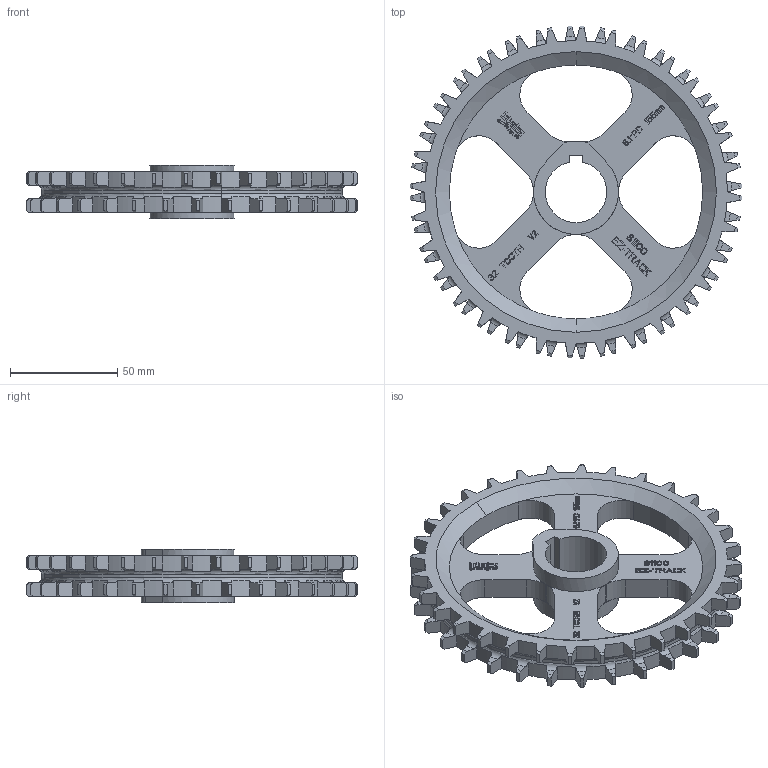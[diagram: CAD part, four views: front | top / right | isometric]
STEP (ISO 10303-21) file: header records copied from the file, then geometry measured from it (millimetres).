
FILE_DESCRIPTION((''),'2;1');
FILE_NAME('S1100_EZ_TRACK_CLEAN_61X1_PILOT','2008-12-12T',('jmumphre'),(''),'PRO/ENGINEER BY PARAMETRIC TECHNOLOGY CORPORATION, 2008150','PRO/ENGINEER BY PARAMETRIC TECHNOLOGY CORPORATION, 2008150','');
FILE_SCHEMA(('CONFIG_CONTROL_DESIGN'));
Length unit declared in the file: inch
Products named in the file (1): S1100_EZ_TRACK_CLEAN_61X1_PILOT
Bounding box: 154.72 x 154.72 x 24.89 mm (x, y, z)
Volume: 140843.1 mm3; surface area: 44847.5 mm2
Topology: 1 solids, 1 shells, 1575 faces, 4534 edges, 3016 vertices
Faces by surface type: plane 1324, cylinder 179, cone 68, torus 4
Entity records: 52106 total; most frequent: CARTESIAN_POINT 10813, ORIENTED_EDGE 9068, DIRECTION 7878, EDGE_CURVE 4534, VECTOR 3692, LINE 3692, VERTEX_POINT 3016, AXIS2_PLACEMENT_3D 2093
